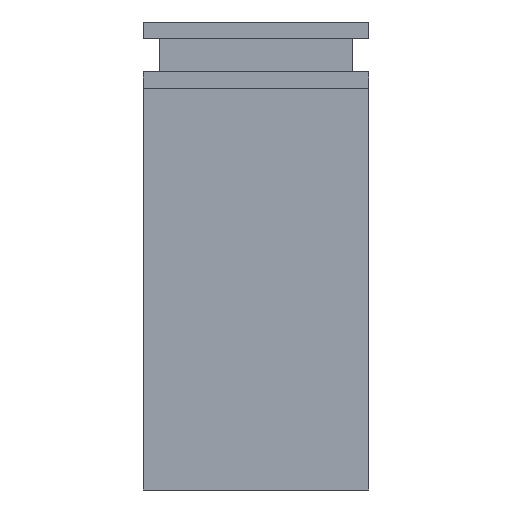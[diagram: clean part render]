
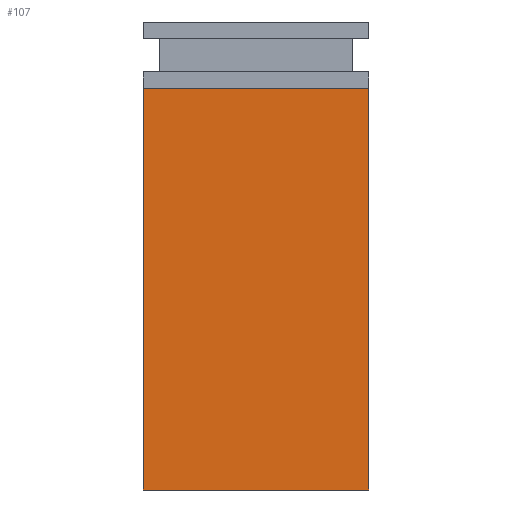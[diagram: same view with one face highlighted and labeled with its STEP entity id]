
A CAD part, left-side view. The second image highlights one B-rep face of the part: STEP entity #107.
In plain terms, the highlighted planar face has unit normal (-1, 0, 0).
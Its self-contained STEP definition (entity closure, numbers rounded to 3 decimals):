
#107=ADVANCED_FACE('',(#185),#1069,.T.);
#185=FACE_OUTER_BOUND('',#263,.T.);
#263=EDGE_LOOP('',(#548,#549,#550,#551));
#548=ORIENTED_EDGE('',*,*,#726,.T.);
#549=ORIENTED_EDGE('',*,*,#725,.F.);
#550=ORIENTED_EDGE('',*,*,#727,.T.);
#551=ORIENTED_EDGE('',*,*,#717,.F.);
#717=EDGE_CURVE('',#985,#986,#873,.T.);
#725=EDGE_CURVE('',#991,#990,#881,.T.);
#726=EDGE_CURVE('',#985,#990,#882,.T.);
#727=EDGE_CURVE('',#991,#986,#883,.T.);
#873=B_SPLINE_CURVE_WITH_KNOTS('',1,(#1762,#1763),.UNSPECIFIED.,.F.,.F.,
(2,2),(0.,605.),.UNSPECIFIED.);
#881=B_SPLINE_CURVE_WITH_KNOTS('',1,(#1778,#1779),.UNSPECIFIED.,.F.,.F.,
(2,2),(0.,605.),.UNSPECIFIED.);
#882=B_SPLINE_CURVE_WITH_KNOTS('',1,(#1780,#1781),.UNSPECIFIED.,.F.,.F.,
(2,2),(0.,340.),.UNSPECIFIED.);
#883=B_SPLINE_CURVE_WITH_KNOTS('',1,(#1782,#1783),.UNSPECIFIED.,.F.,.F.,
(2,2),(0.,340.),.UNSPECIFIED.);
#985=VERTEX_POINT('',#1753);
#986=VERTEX_POINT('',#1754);
#990=VERTEX_POINT('',#1758);
#991=VERTEX_POINT('',#1759);
#1069=PLANE('',#1235);
#1235=AXIS2_PLACEMENT_3D('',#1749,#1316,$);
#1316=DIRECTION('',(-1.,0.,0.));
#1749=CARTESIAN_POINT('',(-500.,204.12,-60.62));
#1753=CARTESIAN_POINT('',(-500.,170.,0.));
#1754=CARTESIAN_POINT('',(-500.,170.,605.));
#1758=CARTESIAN_POINT('',(-500.,-170.,0.));
#1759=CARTESIAN_POINT('',(-500.,-170.,605.));
#1762=CARTESIAN_POINT('',(-500.,170.,0.));
#1763=CARTESIAN_POINT('',(-500.,170.,605.));
#1778=CARTESIAN_POINT('',(-500.,-170.,605.));
#1779=CARTESIAN_POINT('',(-500.,-170.,0.));
#1780=CARTESIAN_POINT('',(-500.,170.,0.));
#1781=CARTESIAN_POINT('',(-500.,-170.,0.));
#1782=CARTESIAN_POINT('',(-500.,-170.,605.));
#1783=CARTESIAN_POINT('',(-500.,170.,605.));
